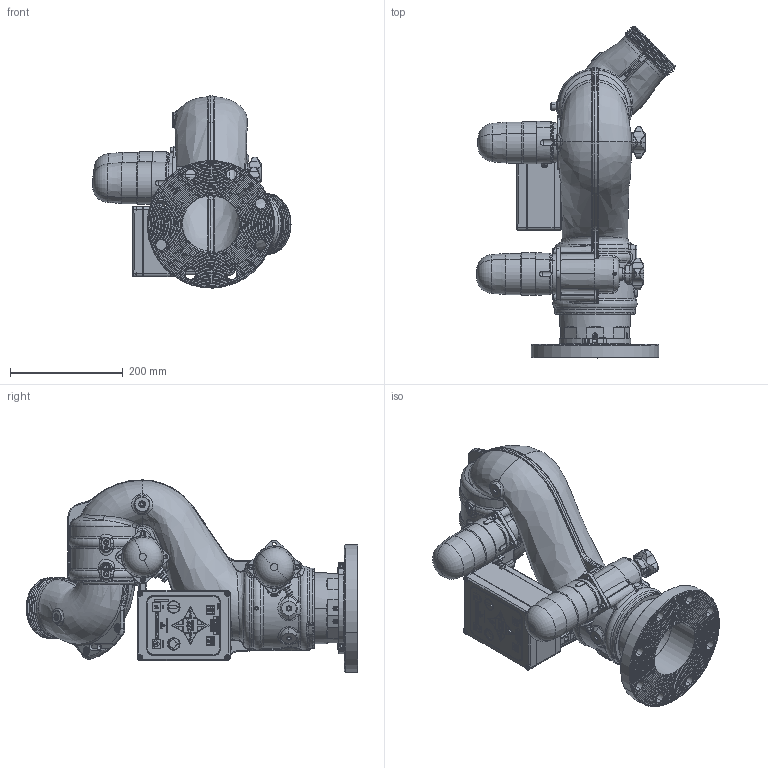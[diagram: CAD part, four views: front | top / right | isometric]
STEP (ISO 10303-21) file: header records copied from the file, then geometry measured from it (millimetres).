
FILE_DESCRIPTION (( 'STEP AP203' ), '1' );
FILE_NAME ('Y5-E21A-L-02.STEP', '2017-04-28T15:27:09', ( '' ), ( '' ), 'SwSTEP 2.0', 'SolidWorks 2016', '' );
FILE_SCHEMA (( 'CONFIG_CONTROL_DESIGN' ));
Products named in the file (1): Y5-E21A-L-02
Bounding box: 351.36 x 587.66 x 340.38 mm (x, y, z)
Surface area: 809815.6 mm2 (no closed solid volume)
Topology: 0 solids, 197 shells, 2413 faces, 10289 edges, 7922 vertices
Faces by surface type: plane 693, cylinder 463, torus 454, bspline 418, cone 334, sphere 51
Entity records: 204286 total; most frequent: CARTESIAN_POINT 127903, ORIENTED_EDGE 15097, DIRECTION 13564, EDGE_CURVE 10277, VERTEX_POINT 7919, AXIS2_PLACEMENT_3D 4578, VECTOR 4408, LINE 4408
